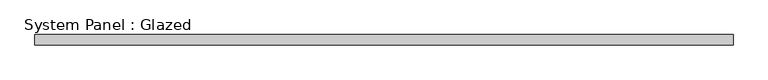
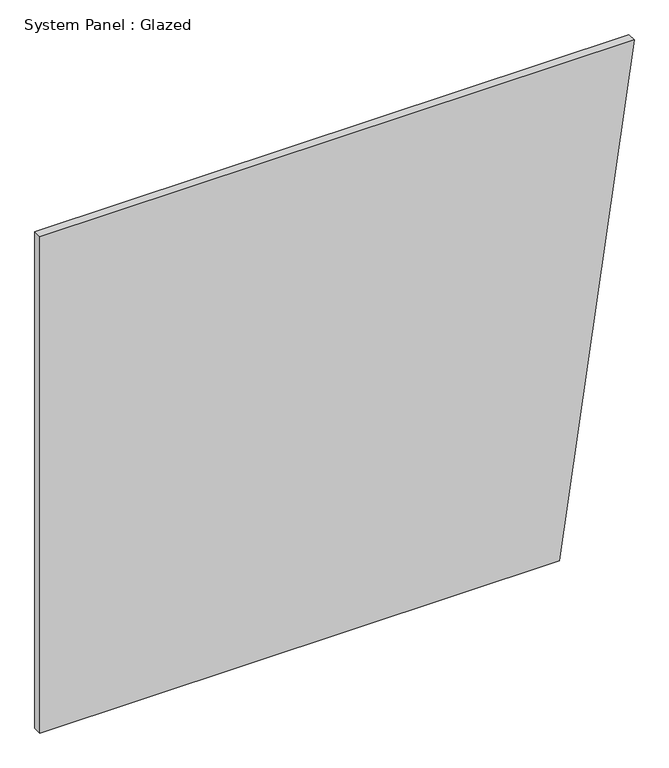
"""IFC4 building model written with IfcOpenShell, lengths in millimetres: plate geometry, System Panel : Glazed."""

from ifc_helpers import new_model, si_unit, frame, origin, place, context, project, spatial, polyline, outline, extrude, source, transform, mapped, element, save


def system_panel_glazed_9bcb30d3(model_context):
    return source(origin(), model_context, "Body", "SweptSolid", [
        extrude(outline(polyline([(0.0, -863.498906), (0.0, 646.4535509), (1524.0, 863.498906), (1524.0, -863.498906), (0.0, -863.498906)])), frame((0.0, 19.05, 0.0), z_axis=(0.0, 1.0, 0.0), x_axis=(0.0, 0.0, 1.0)), (0.0, 0.0, 1.0), 25.4),
    ])


if __name__ == "__main__":
    model = new_model("IFC4")
    model_context = context("Model", 3, world=origin())
    ifc_project = project(units=[si_unit("LENGTHUNIT", "METRE", prefix="MILLI")], contexts=[model_context])
    site = spatial("IfcSite", under=ifc_project)
    building = spatial("IfcBuilding", under=site)
    placement = place(None, origin())
    system_panel_glazed_shape = system_panel_glazed_9bcb30d3(model_context)
    element("IfcPlate", 1, ObjectType="System Panel : Glazed", at=placement, inside=building, context=model_context, shape_type="MappedRepresentation", body=[
        mapped(system_panel_glazed_shape, transform((0.0, 0.0, 0.0), x_axis=(1.0, 0.0, 0.0), y_axis=(0.0, 1.0, 0.0), z_axis=(0.0, 0.0, 1.0))),
    ])
    save(model, "model.ifc")
